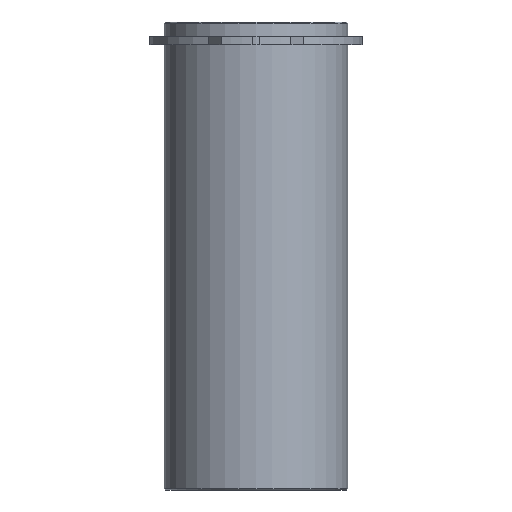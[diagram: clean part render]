
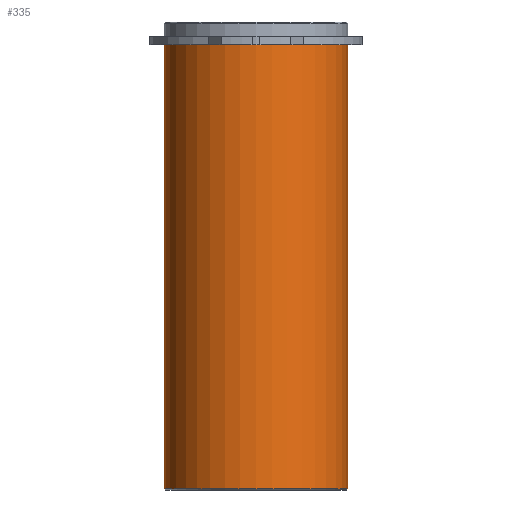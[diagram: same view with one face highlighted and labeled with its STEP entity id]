
A CAD part, front view. The second image highlights one B-rep face of the part: STEP entity #335.
In plain terms, the highlighted cylindrical face has radius 19.625 mm (diameter 39.25 mm), a partial arc.
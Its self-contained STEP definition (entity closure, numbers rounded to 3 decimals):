
#294=CARTESIAN_POINT('',(0.0,0.,-47.4));
#295=DIRECTION('',(0.0,0.,1.0));
#296=DIRECTION('',(1.0,0.0,0.0));
#297=AXIS2_PLACEMENT_3D('',#294,#295,#296);
#298=CYLINDRICAL_SURFACE('',#297,19.625);
#299=CARTESIAN_POINT('',(19.625,0.0,0.0));
#300=VERTEX_POINT('',#299);
#301=CARTESIAN_POINT('',(19.625,0.,-94.8));
#302=VERTEX_POINT('',#301);
#303=CARTESIAN_POINT('',(19.625,0.0,0.0));
#304=DIRECTION('',(0.0,0.0,-1.0));
#305=VECTOR('',#304,94.8);
#306=LINE('',#303,#305);
#307=EDGE_CURVE('',#300,#302,#306,.T.);
#308=ORIENTED_EDGE('',*,*,#307,.F.);
#309=CARTESIAN_POINT('',(-19.625,0.,0.0));
#310=VERTEX_POINT('',#309);
#311=CARTESIAN_POINT('',(0.0,0.0,0.0));
#312=DIRECTION('',(0.0,0.0,1.0));
#313=DIRECTION('',(1.0,0.0,0.0));
#314=AXIS2_PLACEMENT_3D('',#311,#312,#313);
#315=CIRCLE('',#314,19.625);
#316=EDGE_CURVE('',#310,#300,#315,.T.);
#317=ORIENTED_EDGE('',*,*,#316,.F.);
#318=CARTESIAN_POINT('',(-19.625,0.,-94.8));
#319=VERTEX_POINT('',#318);
#320=CARTESIAN_POINT('',(-19.625,0.,0.0));
#321=DIRECTION('',(0.0,0.0,-1.0));
#322=VECTOR('',#321,94.8);
#323=LINE('',#320,#322);
#324=EDGE_CURVE('',#310,#319,#323,.T.);
#325=ORIENTED_EDGE('',*,*,#324,.T.);
#326=CARTESIAN_POINT('',(0.0,0.,-94.8));
#327=DIRECTION('',(0.0,0.0,1.0));
#328=DIRECTION('',(1.0,0.0,0.0));
#329=AXIS2_PLACEMENT_3D('',#326,#327,#328);
#330=CIRCLE('',#329,19.625);
#331=EDGE_CURVE('',#319,#302,#330,.T.);
#332=ORIENTED_EDGE('',*,*,#331,.T.);
#333=EDGE_LOOP('',(#308,#317,#325,#332));
#334=FACE_OUTER_BOUND('',#333,.T.);
#335=ADVANCED_FACE('',(#334),#298,.T.);
